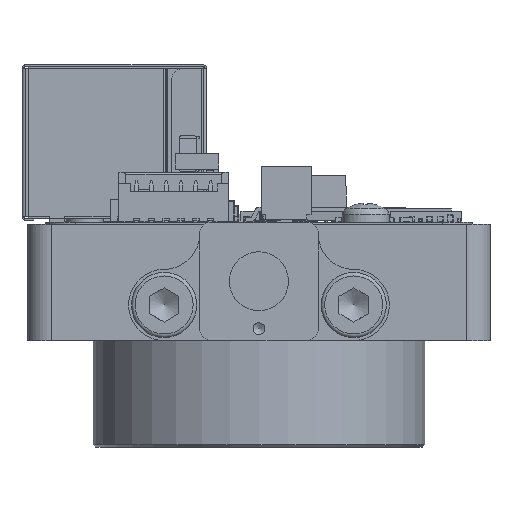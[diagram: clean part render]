
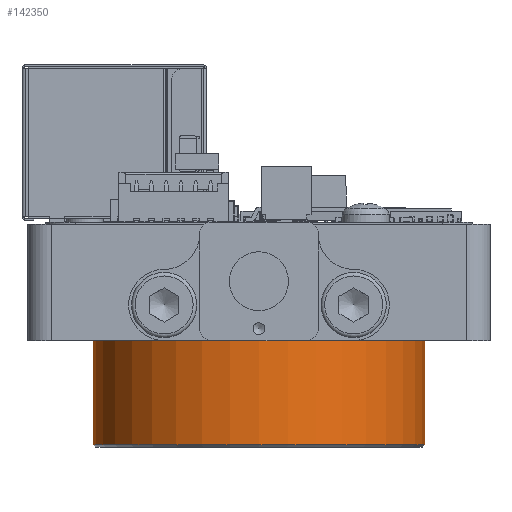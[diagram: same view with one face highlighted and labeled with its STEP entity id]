
A CAD part, front view. The second image highlights one B-rep face of the part: STEP entity #142350.
In plain terms, the highlighted cylindrical face has radius 14 mm (diameter 28 mm), a full revolution.
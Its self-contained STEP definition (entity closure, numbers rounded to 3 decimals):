
#2327=CYLINDRICAL_SURFACE('',#151605,14.);
#5729=CIRCLE('',#151598,14.);
#5733=CIRCLE('',#151606,14.);
#5734=CIRCLE('',#151607,14.);
#13470=FACE_OUTER_BOUND('',#22027,.T.);
#22027=EDGE_LOOP('',(#97862,#97863,#97864,#97865,#97866));
#33660=LINE('',#217869,#47177);
#47177=VECTOR('',#173292,14.);
#59425=VERTEX_POINT('',#217851);
#59429=VERTEX_POINT('',#217865);
#59430=VERTEX_POINT('',#217866);
#72833=EDGE_CURVE('',#59425,#59425,#5729,.T.);
#72839=EDGE_CURVE('',#59429,#59430,#5733,.T.);
#72840=EDGE_CURVE('',#59430,#59429,#5734,.T.);
#72841=EDGE_CURVE('',#59430,#59425,#33660,.T.);
#97862=ORIENTED_EDGE('',*,*,#72839,.F.);
#97863=ORIENTED_EDGE('',*,*,#72840,.F.);
#97864=ORIENTED_EDGE('',*,*,#72841,.T.);
#97865=ORIENTED_EDGE('',*,*,#72833,.F.);
#97866=ORIENTED_EDGE('',*,*,#72841,.F.);
#142350=ADVANCED_FACE('',(#13470),#2327,.T.);
#151598=AXIS2_PLACEMENT_3D('',#217852,#173270,#173271);
#151605=AXIS2_PLACEMENT_3D('',#217864,#173286,#173287);
#151606=AXIS2_PLACEMENT_3D('',#217867,#173288,#173289);
#151607=AXIS2_PLACEMENT_3D('',#217868,#173290,#173291);
#173270=DIRECTION('center_axis',(0.,0.,1.));
#173271=DIRECTION('ref_axis',(-1.,0.,0.));
#173286=DIRECTION('center_axis',(0.,0.,-1.));
#173287=DIRECTION('ref_axis',(-1.,0.,0.));
#173288=DIRECTION('center_axis',(0.,0.,-1.));
#173289=DIRECTION('ref_axis',(1.,0.,0.));
#173290=DIRECTION('center_axis',(0.,0.,-1.));
#173291=DIRECTION('ref_axis',(1.,0.,0.));
#173292=DIRECTION('',(0.,0.,1.));
#217851=CARTESIAN_POINT('',(14.,0.,0.));
#217852=CARTESIAN_POINT('Origin',(0.,0.,0.));
#217864=CARTESIAN_POINT('Origin',(0.,0.,0.));
#217865=CARTESIAN_POINT('',(-14.,0.,-8.8));
#217866=CARTESIAN_POINT('',(14.,0.,-8.8));
#217867=CARTESIAN_POINT('Origin',(0.,0.,-8.8));
#217868=CARTESIAN_POINT('Origin',(0.,0.,-8.8));
#217869=CARTESIAN_POINT('',(14.,0.,0.));
